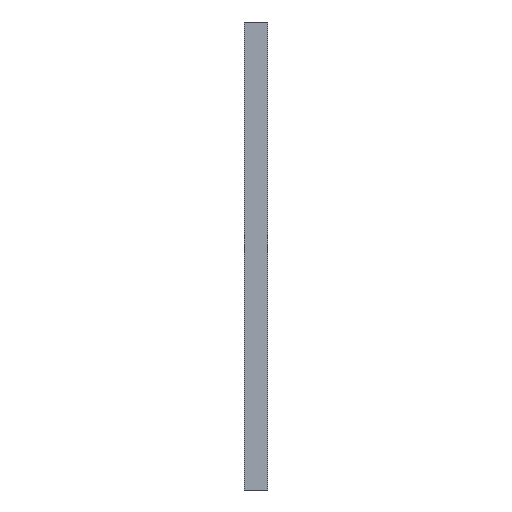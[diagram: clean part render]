
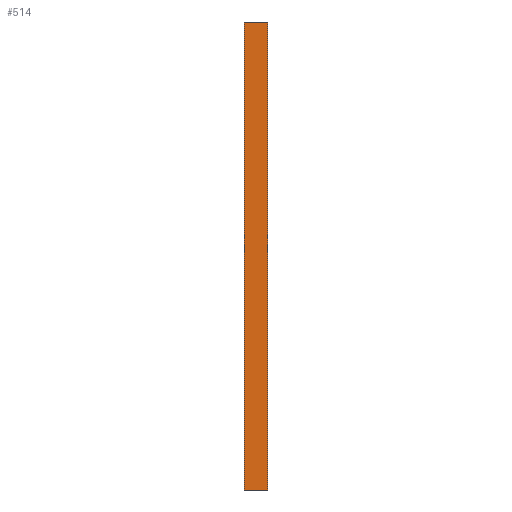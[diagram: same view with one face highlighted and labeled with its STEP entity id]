
A CAD part, front view. The second image highlights one B-rep face of the part: STEP entity #514.
In plain terms, the highlighted planar face has unit normal (0, -1, 0).
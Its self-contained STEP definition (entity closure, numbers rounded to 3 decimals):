
#112 = EDGE_CURVE ( 'NONE', #921, #1413, #461, .T. ) ;
#239 = AXIS2_PLACEMENT_3D ( 'NONE', #2277, #1548, #1319 ) ;
#246 = VECTOR ( 'NONE', #859, 1000. ) ;
#305 = DIRECTION ( 'NONE',  ( 0., 0., -1. ) ) ;
#451 = VERTEX_POINT ( 'NONE', #2310 ) ;
#461 = LINE ( 'NONE', #1244, #2178 ) ;
#514 = ADVANCED_FACE ( 'NONE', ( #1160 ), #941, .F. ) ;
#584 = CARTESIAN_POINT ( 'NONE',  ( 75., 0., -1500. ) ) ;
#685 = CARTESIAN_POINT ( 'NONE',  ( 75., 0., 1500. ) ) ;
#802 = VECTOR ( 'NONE', #305, 1000. ) ;
#859 = DIRECTION ( 'NONE',  ( 1., 0., 0. ) ) ;
#921 = VERTEX_POINT ( 'NONE', #1737 ) ;
#941 = PLANE ( 'NONE',  #239 ) ;
#1042 = DIRECTION ( 'NONE',  ( 1., 0., 0. ) ) ;
#1160 = FACE_OUTER_BOUND ( 'NONE', #2008, .T. ) ;
#1244 = CARTESIAN_POINT ( 'NONE',  ( -75., 0., 1500. ) ) ;
#1319 = DIRECTION ( 'NONE',  ( -1., 0., 0. ) ) ;
#1401 = ORIENTED_EDGE ( 'NONE', *, *, #2002, .T. ) ;
#1413 = VERTEX_POINT ( 'NONE', #1514 ) ;
#1462 = EDGE_CURVE ( 'NONE', #451, #2475, #2236, .T. ) ;
#1514 = CARTESIAN_POINT ( 'NONE',  ( 75., 0., 1500. ) ) ;
#1538 = DIRECTION ( 'NONE',  ( 0., 0., -1. ) ) ;
#1548 = DIRECTION ( 'NONE',  ( 0., 1., 0. ) ) ;
#1737 = CARTESIAN_POINT ( 'NONE',  ( -75., 0., 1500. ) ) ;
#1872 = CARTESIAN_POINT ( 'NONE',  ( -75., 0., -1500. ) ) ;
#1902 = CARTESIAN_POINT ( 'NONE',  ( -75., 0., 1500. ) ) ;
#1974 = LINE ( 'NONE', #685, #802 ) ;
#2002 = EDGE_CURVE ( 'NONE', #921, #451, #2089, .T. ) ;
#2008 = EDGE_LOOP ( 'NONE', ( #2075, #2265, #2193, #1401 ) ) ;
#2051 = VECTOR ( 'NONE', #1538, 1000. ) ;
#2075 = ORIENTED_EDGE ( 'NONE', *, *, #1462, .T. ) ;
#2089 = LINE ( 'NONE', #1902, #2051 ) ;
#2178 = VECTOR ( 'NONE', #1042, 1000. ) ;
#2193 = ORIENTED_EDGE ( 'NONE', *, *, #112, .F. ) ;
#2236 = LINE ( 'NONE', #1872, #246 ) ;
#2265 = ORIENTED_EDGE ( 'NONE', *, *, #2356, .F. ) ;
#2277 = CARTESIAN_POINT ( 'NONE',  ( -75., 0., 1500. ) ) ;
#2310 = CARTESIAN_POINT ( 'NONE',  ( -75., 0., -1500. ) ) ;
#2356 = EDGE_CURVE ( 'NONE', #1413, #2475, #1974, .T. ) ;
#2475 = VERTEX_POINT ( 'NONE', #584 ) ;
